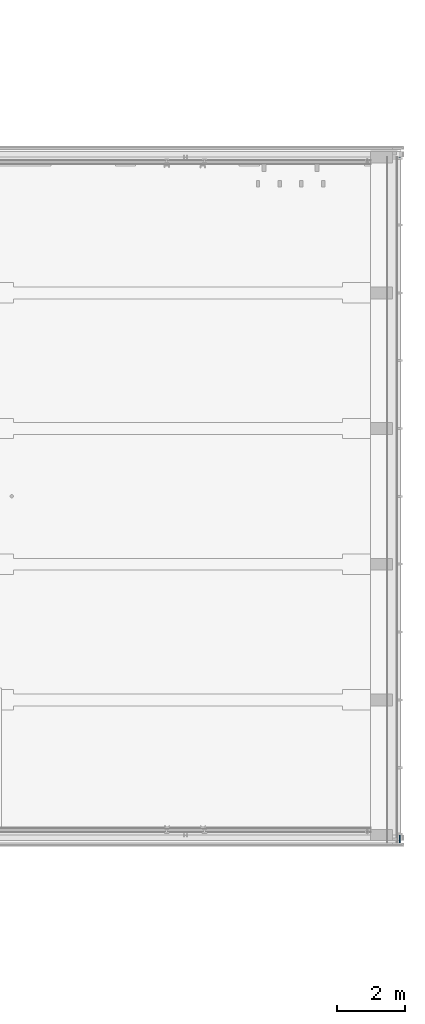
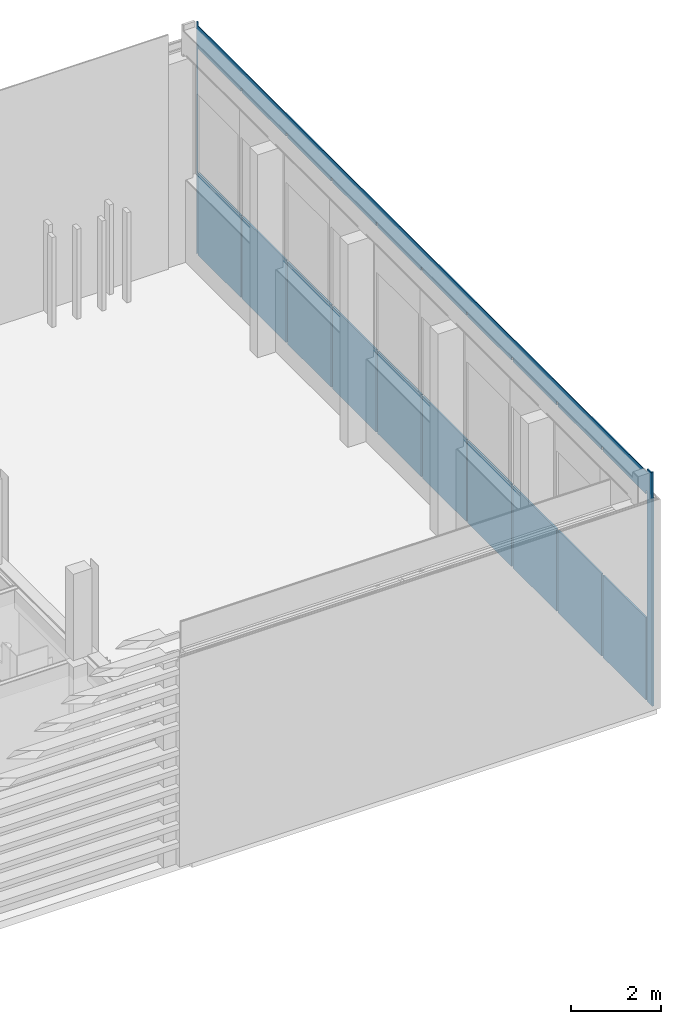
# One storey, part 27 of 109: 1 building element part, 10 openings, 1 element without a shape of its own.
"""IFC2X3 building model written with IfcOpenShell, lengths in millimetres."""

from ifc_helpers import new_model, entity, si_unit, converted_unit, derived_unit, money_unit, direction, frame, origin_with_axes, place, context, subcontext, project, spatial, faceted_brep, material, type_object, element, aggregate, save


model = new_model("IFC2X3")

# Units and contexts
model_context = context("Model", 3, precision=0.01, world=origin_with_axes(), true_north=direction((0.0, 1.0)))
body_context = subcontext(model_context, "Body", "Model", "MODEL_VIEW")
ifc_project = project(units=[si_unit("LENGTHUNIT", "METRE", prefix="MILLI"), si_unit("AREAUNIT", "SQUARE_METRE"), si_unit("VOLUMEUNIT", "CUBIC_METRE"), converted_unit("PLANEANGLEUNIT", "DEGREE", entity("IfcPlaneAngleMeasure", 0.0174532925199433), si_unit("PLANEANGLEUNIT", "RADIAN"), dimensions=[0, 0, 0, 0, 0, 0, 0]), money_unit("EUR"), converted_unit("TIMEUNIT", "Year", entity("IfcTimeMeasure", 31557600.0), si_unit("TIMEUNIT", "SECOND"), dimensions=[0, 0, 1, 0, 0, 0, 0]), si_unit("MASSUNIT", "GRAM", prefix="KILO"), si_unit("THERMODYNAMICTEMPERATUREUNIT", "DEGREE_CELSIUS"), si_unit("LUMINOUSINTENSITYUNIT", "LUMEN"), si_unit("ENERGYUNIT", "JOULE", prefix="MEGA"), derived_unit("THERMALCONDUCTANCEUNIT", [(si_unit("POWERUNIT", "WATT"), 1), (si_unit("LENGTHUNIT", "METRE"), -1), (si_unit("THERMODYNAMICTEMPERATUREUNIT", "KELVIN"), -1)]), derived_unit("SPECIFICHEATCAPACITYUNIT", [(si_unit("ENERGYUNIT", "JOULE"), 1), (si_unit("MASSUNIT", "GRAM", prefix="KILO"), -1), (si_unit("THERMODYNAMICTEMPERATUREUNIT", "KELVIN"), -1)]), derived_unit("MASSDENSITYUNIT", [(si_unit("MASSUNIT", "GRAM", prefix="KILO"), 1), (si_unit("VOLUMEUNIT", "CUBIC_METRE"), -1)])], contexts=[model_context])

# Site, building, storey
site_placement = place(None, origin_with_axes())
site = spatial("IfcSite", under=ifc_project, at=site_placement, Name="<site naam>", CompositionType="ELEMENT")
building_placement = place(site_placement, origin_with_axes())
building = spatial("IfcBuilding", under=site, at=building_placement, Name="<Naam gebouw>", CompositionType="ELEMENT")
storey_placement = place(building_placement, origin_with_axes())
storey = spatial("IfcBuildingStorey", under=building, at=storey_placement, Name="00 Begane grond", CompositionType="ELEMENT", Elevation=0.0)

# Wall, openings, building element part
wall_type = type_object("IfcWallType", Name="HSB_285 gevelbeplating 420", PredefinedType="NOTDEFINED")
wall_placement = place(storey_placement, frame((70205.99994042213, -214.0893451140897, 0.0), z_axis=(0.0, 0.0, 1.0), x_axis=(0.0, 1.0, 0.0)))
wall = element("IfcWall", 1, at=wall_placement, inside=storey, type_object=wall_type, Name="21_Binnenwand_HSB_285")
opening_1_placement = place(wall_placement, frame((5214.089345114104, 0.0, 2228.02207453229), z_axis=(0.0, 0.0, 1.0), x_axis=(1.0, 0.0, 0.0)))
element("IfcOpeningElement", 2, at=opening_1_placement, cuts=wall, Name="21_BU-B-04_305", context=body_context, shape_type="Brep", body=[
    faceted_brep([(1000.0, 6.000000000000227, 0.0), (1000.0, 6.000000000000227, 3353.976173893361), (1000.0, -1.000000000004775, 3353.976173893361), (1000.0, -1.000000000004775, 0.0), (1000.0, 421.0000000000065, 0.0), (1000.0, 421.0000000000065, 3353.976173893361), (-1000.0, 6.000000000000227, 3353.976173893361), (-1000.0, -1.000000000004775, 3353.976173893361), (-1000.0, -1.000000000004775, 0.0), (-1000.0, 6.000000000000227, 0.0), (-1000.0, 421.0000000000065, 0.0), (-1000.0, 421.0000000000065, 3353.976173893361)], [[[0, 1, 2, 3]], [[1, 0, 4, 5]], [[1, 6, 7, 2]], [[7, 8, 3, 2]], [[9, 0, 3, 8]], [[0, 9, 10, 4]], [[5, 4, 10, 11]], [[6, 1, 5, 11]], [[6, 9, 8, 7]], [[9, 6, 11, 10]]]),
])
opening_2_placement = place(wall_placement, frame((9214.089345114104, 0.0, 2228.02207453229), z_axis=(0.0, 0.0, 1.0), x_axis=(1.0, 0.0, 0.0)))
element("IfcOpeningElement", 3, at=opening_2_placement, cuts=wall, Name="21_BU-B-04_305", context=body_context, shape_type="Brep", body=[
    faceted_brep([(1000.0, 6.000000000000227, 0.0), (1000.0, 6.000000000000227, 3353.976173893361), (1000.0, -1.000000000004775, 3353.976173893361), (1000.0, -1.000000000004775, 0.0), (1000.0, 421.0000000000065, 0.0), (1000.0, 421.0000000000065, 3353.976173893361), (-1000.0, 6.000000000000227, 3353.976173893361), (-1000.0, -1.000000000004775, 3353.976173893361), (-1000.0, -1.000000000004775, 0.0), (-1000.0, 6.000000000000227, 0.0), (-1000.0, 421.0000000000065, 0.0), (-1000.0, 421.0000000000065, 3353.976173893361)], [[[0, 1, 2, 3]], [[1, 0, 4, 5]], [[1, 6, 7, 2]], [[7, 8, 3, 2]], [[9, 0, 3, 8]], [[0, 9, 10, 4]], [[5, 4, 10, 11]], [[6, 1, 5, 11]], [[6, 9, 8, 7]], [[9, 6, 11, 10]]]),
])
opening_3_placement = place(wall_placement, frame((17214.08934511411, 0.0, 2228.02207453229), z_axis=(0.0, 0.0, 1.0), x_axis=(1.0, 0.0, 0.0)))
element("IfcOpeningElement", 4, at=opening_3_placement, cuts=wall, Name="21_BU-B-04_305", context=body_context, shape_type="Brep", body=[
    faceted_brep([(1000.0, 6.000000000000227, 0.0), (1000.0, 6.000000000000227, 3353.976173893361), (1000.0, -1.000000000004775, 3353.976173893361), (1000.0, -1.000000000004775, 0.0), (1000.0, 421.0000000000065, 0.0), (1000.0, 421.0000000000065, 3353.976173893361), (-1000.0, 6.000000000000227, 3353.976173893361), (-1000.0, -1.000000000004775, 3353.976173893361), (-1000.0, -1.000000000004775, 0.0), (-1000.0, 6.000000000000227, 0.0), (-1000.0, 421.0000000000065, 0.0), (-1000.0, 421.0000000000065, 3353.976173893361)], [[[0, 1, 2, 3]], [[1, 0, 4, 5]], [[1, 6, 7, 2]], [[7, 8, 3, 2]], [[9, 0, 3, 8]], [[0, 9, 10, 4]], [[5, 4, 10, 11]], [[6, 1, 5, 11]], [[6, 9, 8, 7]], [[9, 6, 11, 10]]]),
])
opening_4_placement = place(wall_placement, frame((3214.089345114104, 0.0, 2228.02207453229), z_axis=(0.0, 0.0, 1.0), x_axis=(1.0, 0.0, 0.0)))
element("IfcOpeningElement", 5, at=opening_4_placement, cuts=wall, Name="21_BU-B-04_305", context=body_context, shape_type="Brep", body=[
    faceted_brep([(999.9999999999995, 6.000000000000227, 0.0), (999.9999999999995, 6.000000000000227, 3353.976173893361), (999.9999999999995, -1.000000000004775, 3353.976173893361), (999.9999999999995, -1.000000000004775, 0.0), (999.9999999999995, 421.0000000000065, 0.0), (999.9999999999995, 421.0000000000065, 3353.976173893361), (-1000.0, 6.000000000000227, 3353.976173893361), (-1000.0, -1.000000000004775, 3353.976173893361), (-1000.0, -1.000000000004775, 0.0), (-1000.0, 6.000000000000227, 0.0), (-1000.0, 421.0000000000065, 0.0), (-1000.0, 421.0000000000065, 3353.976173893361)], [[[0, 1, 2, 3]], [[1, 0, 4, 5]], [[1, 6, 7, 2]], [[7, 8, 3, 2]], [[9, 0, 3, 8]], [[0, 9, 10, 4]], [[5, 4, 10, 11]], [[6, 1, 5, 11]], [[6, 9, 8, 7]], [[9, 6, 11, 10]]]),
])
opening_5_placement = place(wall_placement, frame((13214.0893451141, 0.0, 2228.02207453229), z_axis=(0.0, 0.0, 1.0), x_axis=(1.0, 0.0, 0.0)))
element("IfcOpeningElement", 6, at=opening_5_placement, cuts=wall, Name="21_BU-B-04_305", context=body_context, shape_type="Brep", body=[
    faceted_brep([(1000.0, 6.000000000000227, 0.0), (1000.0, 6.000000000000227, 3353.976173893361), (1000.0, -1.000000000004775, 3353.976173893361), (1000.0, -1.000000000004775, 0.0), (1000.0, 421.0000000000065, 0.0), (1000.0, 421.0000000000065, 3353.976173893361), (-1000.0, 6.000000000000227, 3353.976173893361), (-1000.0, -1.000000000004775, 3353.976173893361), (-1000.0, -1.000000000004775, 0.0), (-1000.0, 6.000000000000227, 0.0), (-1000.0, 421.0000000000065, 0.0), (-1000.0, 421.0000000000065, 3353.976173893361)], [[[0, 1, 2, 3]], [[1, 0, 4, 5]], [[1, 6, 7, 2]], [[7, 8, 3, 2]], [[9, 0, 3, 8]], [[0, 9, 10, 4]], [[5, 4, 10, 11]], [[6, 1, 5, 11]], [[6, 9, 8, 7]], [[9, 6, 11, 10]]]),
])
opening_6_placement = place(wall_placement, frame((1244.089344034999, 0.0, 2228.02207453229), z_axis=(0.0, 0.0, 1.0), x_axis=(1.0, 0.0, 0.0)))
element("IfcOpeningElement", 7, at=opening_6_placement, cuts=wall, Name="21_BU-B-03_305", context=body_context, shape_type="Brep", body=[
    faceted_brep([(969.9999984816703, 6.000000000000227, 0.0), (969.9999984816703, 6.000000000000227, 3353.976173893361), (969.9999984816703, -1.000000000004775, 3353.976173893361), (969.9999984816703, -1.000000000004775, 0.0), (969.9999984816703, 421.0000000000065, 0.0), (969.9999984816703, 421.0000000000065, 3353.976173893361), (-969.9999984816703, 6.000000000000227, 3353.976173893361), (-969.9999984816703, -1.000000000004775, 3353.976173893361), (-969.9999984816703, -1.000000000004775, 0.0), (-969.9999984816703, 6.000000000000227, 0.0), (-969.9999984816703, 421.0000000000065, 0.0), (-969.9999984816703, 421.0000000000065, 3353.976173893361)], [[[0, 1, 2, 3]], [[1, 0, 4, 5]], [[1, 6, 7, 2]], [[7, 8, 3, 2]], [[9, 0, 3, 8]], [[0, 9, 10, 4]], [[5, 4, 10, 11]], [[6, 1, 5, 11]], [[6, 9, 8, 7]], [[9, 6, 11, 10]]]),
])
opening_7_placement = place(wall_placement, frame((7214.089345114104, 0.0, 2228.02207453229), z_axis=(0.0, 0.0, 1.0), x_axis=(1.0, 0.0, 0.0)))
element("IfcOpeningElement", 8, at=opening_7_placement, cuts=wall, Name="21_BU-B-04_305", context=body_context, shape_type="Brep", body=[
    faceted_brep([(1000.0, 6.000000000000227, 0.0), (1000.0, 6.000000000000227, 3353.976173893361), (1000.0, -1.000000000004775, 3353.976173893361), (1000.0, -1.000000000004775, 0.0), (1000.0, 421.0000000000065, 0.0), (1000.0, 421.0000000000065, 3353.976173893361), (-1000.0, 6.000000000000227, 3353.976173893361), (-1000.0, -1.000000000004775, 3353.976173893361), (-1000.0, -1.000000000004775, 0.0), (-1000.0, 6.000000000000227, 0.0), (-1000.0, 421.0000000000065, 0.0), (-1000.0, 421.0000000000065, 3353.976173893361)], [[[0, 1, 2, 3]], [[1, 0, 4, 5]], [[1, 6, 7, 2]], [[7, 8, 3, 2]], [[9, 0, 3, 8]], [[0, 9, 10, 4]], [[5, 4, 10, 11]], [[6, 1, 5, 11]], [[6, 9, 8, 7]], [[9, 6, 11, 10]]]),
])
opening_8_placement = place(wall_placement, frame((11214.0893451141, 0.0, 2228.02207453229), z_axis=(0.0, 0.0, 1.0), x_axis=(1.0, 0.0, 0.0)))
element("IfcOpeningElement", 9, at=opening_8_placement, cuts=wall, Name="21_BU-B-04_305", context=body_context, shape_type="Brep", body=[
    faceted_brep([(1000.0, 6.000000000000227, 0.0), (1000.0, 6.000000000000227, 3353.976173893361), (1000.0, -1.000000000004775, 3353.976173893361), (1000.0, -1.000000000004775, 0.0), (1000.0, 421.0000000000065, 0.0), (1000.0, 421.0000000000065, 3353.976173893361), (-1000.0, 6.000000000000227, 3353.976173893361), (-1000.0, -1.000000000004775, 3353.976173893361), (-1000.0, -1.000000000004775, 0.0), (-1000.0, 6.000000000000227, 0.0), (-1000.0, 421.0000000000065, 0.0), (-1000.0, 421.0000000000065, 3353.976173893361)], [[[0, 1, 2, 3]], [[1, 0, 4, 5]], [[1, 6, 7, 2]], [[7, 8, 3, 2]], [[9, 0, 3, 8]], [[0, 9, 10, 4]], [[5, 4, 10, 11]], [[6, 1, 5, 11]], [[6, 9, 8, 7]], [[9, 6, 11, 10]]]),
])
opening_9_placement = place(wall_placement, frame((19184.08934359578, 0.0, 2228.02207453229), z_axis=(0.0, 0.0, 1.0), x_axis=(1.0, 0.0, 0.0)))
element("IfcOpeningElement", 10, at=opening_9_placement, cuts=wall, Name="21_BU-B-03 sp_305", context=body_context, shape_type="Brep", body=[
    faceted_brep([(969.999998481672, 6.000000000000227, 0.0), (969.999998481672, 6.000000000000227, 3353.976173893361), (969.999998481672, -1.000000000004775, 3353.976173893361), (969.999998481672, -1.000000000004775, 0.0), (969.999998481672, 421.0000000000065, 0.0), (969.999998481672, 421.0000000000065, 3353.976173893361), (-969.999998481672, 6.000000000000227, 3353.976173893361), (-969.999998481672, -1.000000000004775, 3353.976173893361), (-969.999998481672, -1.000000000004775, 0.0), (-969.999998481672, 6.000000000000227, 0.0), (-969.999998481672, 421.0000000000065, 0.0), (-969.999998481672, 421.0000000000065, 3353.976173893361)], [[[0, 1, 2, 3]], [[1, 0, 4, 5]], [[1, 6, 7, 2]], [[7, 8, 3, 2]], [[9, 0, 3, 8]], [[0, 9, 10, 4]], [[5, 4, 10, 11]], [[6, 1, 5, 11]], [[6, 9, 8, 7]], [[9, 6, 11, 10]]]),
])
opening_10_placement = place(wall_placement, frame((15214.0893451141, 0.0, 2228.02207453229), z_axis=(0.0, 0.0, 1.0), x_axis=(1.0, 0.0, 0.0)))
element("IfcOpeningElement", 11, at=opening_10_placement, cuts=wall, Name="21_BU-B-04_305", context=body_context, shape_type="Brep", body=[
    faceted_brep([(1000.000000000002, 6.000000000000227, 0.0), (1000.000000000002, 6.000000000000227, 3353.976173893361), (1000.000000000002, -1.000000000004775, 3353.976173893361), (1000.000000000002, -1.000000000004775, 0.0), (1000.000000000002, 421.0000000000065, 0.0), (1000.000000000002, 421.0000000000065, 3353.976173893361), (-1000.0, 6.000000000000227, 3353.976173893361), (-1000.0, -1.000000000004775, 3353.976173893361), (-1000.0, -1.000000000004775, 0.0), (-1000.0, 6.000000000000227, 0.0), (-1000.0, 421.0000000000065, 0.0), (-1000.0, 421.0000000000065, 3353.976173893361)], [[[0, 1, 2, 3]], [[1, 0, 4, 5]], [[1, 6, 7, 2]], [[7, 8, 3, 2]], [[9, 0, 3, 8]], [[0, 9, 10, 4]], [[5, 4, 10, 11]], [[6, 1, 5, 11]], [[6, 9, 8, 7]], [[9, 6, 11, 10]]]),
])
ifc_material = material(Name="metaal - Aluminium gevelplaat")
building_element_part_placement = place(wall_placement, origin_with_axes())
building_element_part = element("IfcBuildingElementPart", 12, at=building_element_part_placement, material=ifc_material, Name="metaal - Aluminium gevelplaat", context=body_context, shape_type="Brep", body=[
    faceted_brep([(20154.08934511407, 40.00000000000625, 6294.99999987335), (20154.08934511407, 15.9999407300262, 6294.99999987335), (20214.08934511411, 15.9999407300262, 6294.99999987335), (20214.08934511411, 40.00000000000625, 6294.99999987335), (20154.08934511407, 15.9999407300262, 6194.999999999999), (20154.08934511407, 40.00000000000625, 6194.999999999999), (225.0000232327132, 15.9999407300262, 6194.999999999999), (225.0000232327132, 15.9999407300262, 6294.99999987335), (9.089345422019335, 15.9999407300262, 6294.99999987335), (9.089345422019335, 15.9999407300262, 5635.000062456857), (225.0000232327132, 15.9999407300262, 5635.000062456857), (225.0000232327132, 15.9999407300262, 5685.000037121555), (285.0000232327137, 15.9999407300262, 5685.000037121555), (285.0000232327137, 15.9999407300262, 5682.005643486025), (2184.089345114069, 15.9999407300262, 5682.005643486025), (2184.089345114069, 15.9999407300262, 5685.000037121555), (2244.089345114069, 15.9999407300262, 5685.000037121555), (2244.08934511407, 15.9999407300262, 5682.005643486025), (4184.089344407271, 15.9999407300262, 5682.005643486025), (4184.089344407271, 15.9999407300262, 5685.000037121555), (4244.089344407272, 15.9999407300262, 5685.000037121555), (4244.089344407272, 15.9999407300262, 5682.005643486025), (6184.089345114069, 15.9999407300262, 5682.005643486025), (6184.089345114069, 15.9999407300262, 5685.000037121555), (6244.089345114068, 15.9999407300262, 5685.000037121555), (6244.089345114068, 15.9999407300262, 5682.005643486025), (8184.089345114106, 15.9999407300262, 5682.005643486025), (8184.089345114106, 15.9999407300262, 5685.000037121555), (8244.089345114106, 15.9999407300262, 5685.000037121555), (8244.089345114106, 15.9999407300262, 5682.005643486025), (10184.04467526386, 15.9999407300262, 5682.005643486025), (10184.04467526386, 15.9999407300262, 5685.000037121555), (10244.04467526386, 15.9999407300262, 5685.000037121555), (10244.04467526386, 15.9999407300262, 5682.005643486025), (12181.08934525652, 15.9999407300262, 5682.005643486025), (12181.08934525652, 15.9999407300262, 5685.000037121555), (12241.08934525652, 15.9999407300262, 5685.000037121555), (12241.08934525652, 15.9999407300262, 5682.005643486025), (14184.08934511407, 15.9999407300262, 5682.005643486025), (14184.08934511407, 15.9999407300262, 5685.000037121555), (14244.08934511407, 15.9999407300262, 5685.000037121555), (14244.08934511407, 15.9999407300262, 5682.005643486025), (16184.0893451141, 15.9999407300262, 5682.005643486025), (16184.0893451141, 15.9999407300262, 5685.000037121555), (16244.0893451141, 15.9999407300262, 5685.000037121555), (16244.0893451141, 15.9999407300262, 5682.005643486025), (18184.08934511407, 15.9999407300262, 5682.005643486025), (18184.08934511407, 15.9999407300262, 5685.000037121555), (18244.08934511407, 15.9999407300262, 5685.000037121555), (18244.08934511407, 15.9999407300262, 5682.005643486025), (20144.08934467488, 15.9999407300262, 5682.005643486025), (20144.08934467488, 15.9999407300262, 5685.000037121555), (20204.08934467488, 15.9999407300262, 5685.000037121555), (20204.08934467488, 15.9999407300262, 5635.000062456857), (20214.08934511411, 15.9999407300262, 5635.000062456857), (20214.08934511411, 0.0, 5635.000062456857), (20214.08934511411, 0.0, 0.0), (20214.08934511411, 40.00000000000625, 0.0), (20204.08934467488, 40.00000000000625, 0.0), (20204.08934467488, 40.00000000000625, 5685.000037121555), (20144.08934467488, 40.00000000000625, 5685.000037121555), (20144.08934467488, 40.00000000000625, 0.0), (18244.08934511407, 40.00000000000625, 0.0), (18244.08934511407, 40.00000000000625, 5685.000037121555), (18184.08934511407, 40.00000000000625, 5685.000037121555), (18184.08934511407, 40.00000000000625, 0.0), (16244.0893451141, 40.00000000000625, 0.0), (16244.0893451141, 40.00000000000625, 5685.000037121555), (16184.0893451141, 40.00000000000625, 5685.000037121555), (16184.0893451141, 40.00000000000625, 0.0), (14244.08934511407, 40.00000000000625, 0.0), (14244.08934511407, 40.00000000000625, 5685.000037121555), (14184.08934511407, 40.00000000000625, 5685.000037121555), (14184.08934511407, 40.00000000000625, 0.0), (12241.08934525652, 40.00000000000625, 0.0), (12241.08934525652, 40.00000000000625, 5685.000037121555), (12181.08934525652, 40.00000000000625, 5685.000037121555), (12181.08934525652, 40.00000000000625, 0.0), (10244.04467526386, 40.00000000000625, 0.0), (10244.04467526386, 40.00000000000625, 5685.000037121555), (10184.04467526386, 40.00000000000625, 5685.000037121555), (10184.04467526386, 40.00000000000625, 0.0), (8244.089345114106, 40.00000000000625, 0.0), (8244.089345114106, 40.00000000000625, 5685.000037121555), (8184.089345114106, 40.00000000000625, 5685.000037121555), (8184.089345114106, 40.00000000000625, 0.0), (6244.089345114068, 40.00000000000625, 0.0), (6244.089345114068, 40.00000000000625, 5685.000037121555), (6184.089345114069, 40.00000000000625, 5685.000037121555), (6184.089345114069, 40.00000000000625, 0.0), (4244.089344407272, 40.00000000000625, 0.0), (4244.089344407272, 40.00000000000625, 5685.000037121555), (4184.089344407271, 40.00000000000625, 5685.000037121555), (4184.089344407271, 40.00000000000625, 0.0), (2244.089345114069, 40.00000000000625, 0.0), (2244.089345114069, 40.00000000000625, 5685.000037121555), (2184.089345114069, 40.00000000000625, 5685.000037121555), (2184.089345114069, 40.00000000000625, 0.0), (285.0000232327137, 40.00000000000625, 0.0), (285.0000232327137, 40.00000000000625, 5685.000037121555), (225.0000232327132, 40.00000000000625, 5685.000037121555), (225.0000232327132, 40.00000000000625, 0.0), (0.0, 40.00000000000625, 0.0), (0.0, 40.00000000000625, 6345.0), (33.08940469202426, 40.00000000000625, 6345.0), (33.08940469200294, 40.00000000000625, 6294.99999987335), (225.0000232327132, 40.00000000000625, 6294.99999987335), (225.0000232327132, 40.00000000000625, 6194.999999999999), (0.0, 6.910595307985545, 6345.0), (0.0, 6.910595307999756, 5635.000062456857), (0.0, 0.0, 5635.000062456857), (225.0000232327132, 0.0, 5635.000062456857), (225.0000232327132, 0.0, 0.0), (285.0000232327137, 25.91946534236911, 5682.005643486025), (285.0000232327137, 0.0, 0.0), (285.0000232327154, 0.0, 5587.005642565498), (285.0000232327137, 25.91946534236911, 5587.005642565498), (2184.089345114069, 25.91946534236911, 5682.005643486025), (2184.089345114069, 25.91946534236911, 5587.005642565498), (2184.089345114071, 0.0, 5587.005642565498), (2184.089345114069, 0.0, 0.0), (2244.08934511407, 25.91946534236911, 5682.005643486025), (2244.089345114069, 0.0, 0.0), (2244.08934511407, 0.0, 5587.005642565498), (2244.08934511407, 25.91946534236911, 5587.005642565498), (4184.089344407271, 25.91946534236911, 5682.005643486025), (4184.089344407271, 25.91946534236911, 5587.005642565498), (4184.089344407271, 0.0, 5587.005642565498), (4184.089344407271, 0.0, 0.0), (4244.089344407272, 25.91946534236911, 5682.005643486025), (4244.089344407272, 0.0, 0.0), (4244.089344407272, 0.0, 5587.005642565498), (4244.089344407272, 25.91946534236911, 5587.005642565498), (6184.089345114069, 25.91946534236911, 5682.005643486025), (6184.089345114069, 25.91946534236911, 5587.005642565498), (6184.089345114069, 0.0, 5587.005642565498), (6184.089345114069, 0.0, 0.0), (6244.089345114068, 25.91946534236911, 5682.005643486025), (6244.089345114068, 0.0, 0.0), (6244.089345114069, 0.0, 5587.005642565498), (6244.089345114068, 25.91946534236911, 5587.005642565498), (8184.089345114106, 25.91946534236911, 5682.005643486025), (8184.089345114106, 25.91946534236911, 5587.005642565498), (8184.089345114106, 0.0, 5587.005642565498), (8184.089345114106, 0.0, 0.0), (8244.089345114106, 25.91946534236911, 5682.005643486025), (8244.089345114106, 0.0, 0.0), (8244.089345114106, 0.0, 5587.005642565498), (8244.089345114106, 25.91946534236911, 5587.005642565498), (10184.04467526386, 25.91946534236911, 5682.005643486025), (10184.04467526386, 25.91946534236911, 5587.005642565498), (10184.04467526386, 0.0, 5587.005642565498), (10184.04467526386, 0.0, 0.0), (10244.04467526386, 25.91946534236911, 5682.005643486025), (10244.04467526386, 0.0, 0.0), (10244.04467526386, 0.0, 5587.005642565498), (10244.04467526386, 25.91946534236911, 5587.005642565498), (12181.08934525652, 25.91946534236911, 5682.005643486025), (12181.08934525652, 25.91946534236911, 5587.005642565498), (12181.08934525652, 0.0, 5587.005642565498), (12181.08934525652, 0.0, 0.0), (12241.08934525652, 25.91946534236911, 5682.005643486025), (12241.08934525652, 0.0, 0.0), (12241.08934525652, 0.0, 5587.005642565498), (12241.08934525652, 25.91946534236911, 5587.005642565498), (14184.08934511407, 25.91946534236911, 5682.005643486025), (14184.08934511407, 25.91946534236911, 5587.005642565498), (14184.08934511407, 0.0, 5587.005642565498), (14184.08934511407, 0.0, 0.0), (14244.08934511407, 25.91946534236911, 5682.005643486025), (14244.08934511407, 0.0, 0.0), (14244.08934511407, 0.0, 5587.005642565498), (14244.08934511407, 25.91946534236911, 5587.005642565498), (16184.0893451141, 25.91946534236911, 5682.005643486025), (16184.0893451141, 25.91946534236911, 5587.005642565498), (16184.0893451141, 0.0, 5587.005642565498), (16184.0893451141, 0.0, 0.0), (16244.0893451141, 25.91946534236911, 5682.005643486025), (16244.0893451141, 0.0, 0.0), (16244.0893451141, 0.0, 5587.005642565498), (16244.0893451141, 25.91946534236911, 5587.005642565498), (18184.08934511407, 25.91946534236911, 5682.005643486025), (18184.08934511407, 25.91946534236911, 5587.005642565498), (18184.08934511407, 0.0, 5587.005642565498), (18184.08934511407, 0.0, 0.0), (18244.08934511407, 25.91946534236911, 5682.005643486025), (18244.08934511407, 0.0, 0.0), (18244.08934511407, 0.0, 5587.005642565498), (18244.08934511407, 25.91946534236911, 5587.005642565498), (20144.08934467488, 25.91946534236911, 5682.005643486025), (20144.08934467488, 25.91946534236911, 5587.005642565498), (20144.08934467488, 0.0, 5587.005642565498), (20144.08934467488, 0.0, 0.0), (20204.08934467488, 0.0, 5635.000062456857), (20204.08934467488, 0.0, 0.0), (0.0, 0.0, 0.0)], [[[0, 1, 2, 3]], [[4, 1, 0, 5]], [[6, 7, 8, 9, 10, 11, 12, 13, 14, 15, 16, 17, 18, 19, 20, 21, 22, 23, 24, 25, 26, 27, 28, 29, 30, 31, 32, 33, 34, 35, 36, 37, 38, 39, 40, 41, 42, 43, 44, 45, 46, 47, 48, 49, 50, 51, 52, 53, 54, 2, 1, 4]], [[3, 2, 54, 55, 56, 57]], [[5, 0, 3, 57, 58, 59, 60, 61, 62, 63, 64, 65, 66, 67, 68, 69, 70, 71, 72, 73, 74, 75, 76, 77, 78, 79, 80, 81, 82, 83, 84, 85, 86, 87, 88, 89, 90, 91, 92, 93, 94, 95, 96, 97, 98, 99, 100, 101, 102, 103, 104, 105, 106, 107]], [[6, 4, 5, 107]], [[106, 7, 6, 107]], [[7, 106, 105, 8]], [[105, 104, 108, 109, 9, 8]], [[109, 110, 111, 10, 9]], [[11, 10, 111, 112, 101, 100]], [[99, 12, 11, 100]], [[113, 13, 12, 99, 98, 114, 115, 116]], [[117, 14, 13, 113]], [[96, 15, 14, 117, 118, 119, 120, 97]], [[95, 16, 15, 96]], [[121, 17, 16, 95, 94, 122, 123, 124]], [[125, 18, 17, 121]], [[92, 19, 18, 125, 126, 127, 128, 93]], [[91, 20, 19, 92]], [[129, 21, 20, 91, 90, 130, 131, 132]], [[133, 22, 21, 129]], [[88, 23, 22, 133, 134, 135, 136, 89]], [[87, 24, 23, 88]], [[137, 25, 24, 87, 86, 138, 139, 140]], [[141, 26, 25, 137]], [[84, 27, 26, 141, 142, 143, 144, 85]], [[83, 28, 27, 84]], [[145, 29, 28, 83, 82, 146, 147, 148]], [[149, 30, 29, 145]], [[80, 31, 30, 149, 150, 151, 152, 81]], [[79, 32, 31, 80]], [[153, 33, 32, 79, 78, 154, 155, 156]], [[157, 34, 33, 153]], [[76, 35, 34, 157, 158, 159, 160, 77]], [[75, 36, 35, 76]], [[161, 37, 36, 75, 74, 162, 163, 164]], [[165, 38, 37, 161]], [[72, 39, 38, 165, 166, 167, 168, 73]], [[71, 40, 39, 72]], [[169, 41, 40, 71, 70, 170, 171, 172]], [[173, 42, 41, 169]], [[68, 43, 42, 173, 174, 175, 176, 69]], [[67, 44, 43, 68]], [[177, 45, 44, 67, 66, 178, 179, 180]], [[181, 46, 45, 177]], [[64, 47, 46, 181, 182, 183, 184, 65]], [[63, 48, 47, 64]], [[185, 49, 48, 63, 62, 186, 187, 188]], [[189, 50, 49, 185]], [[60, 51, 50, 189, 190, 191, 192, 61]], [[59, 52, 51, 60]], [[193, 53, 52, 59, 58, 194]], [[53, 193, 55, 54]], [[56, 55, 193, 194]], [[57, 56, 194, 58]], [[186, 62, 61, 192]], [[65, 184, 178, 66]], [[170, 70, 69, 176]], [[162, 74, 73, 168]], [[154, 78, 77, 160]], [[146, 82, 81, 152]], [[138, 86, 85, 144]], [[130, 90, 89, 136]], [[122, 94, 93, 128]], [[114, 98, 97, 120]], [[195, 102, 101, 112]], [[110, 109, 108, 103, 102, 195]], [[103, 108, 104]], [[112, 111, 110, 195]], [[115, 114, 120, 119]], [[116, 115, 119, 118]], [[113, 116, 118, 117]], [[123, 122, 128, 127]], [[124, 123, 127, 126]], [[121, 124, 126, 125]], [[131, 130, 136, 135]], [[132, 131, 135, 134]], [[129, 132, 134, 133]], [[139, 138, 144, 143]], [[140, 139, 143, 142]], [[137, 140, 142, 141]], [[147, 146, 152, 151]], [[148, 147, 151, 150]], [[145, 148, 150, 149]], [[155, 154, 160, 159]], [[156, 155, 159, 158]], [[153, 156, 158, 157]], [[163, 162, 168, 167]], [[164, 163, 167, 166]], [[161, 164, 166, 165]], [[171, 170, 176, 175]], [[172, 171, 175, 174]], [[169, 172, 174, 173]], [[184, 183, 179, 178]], [[183, 182, 180, 179]], [[182, 181, 177, 180]], [[187, 186, 192, 191]], [[188, 187, 191, 190]], [[185, 188, 190, 189]]]),
])
aggregate(wall, [building_element_part])

save(model, "model.ifc")
